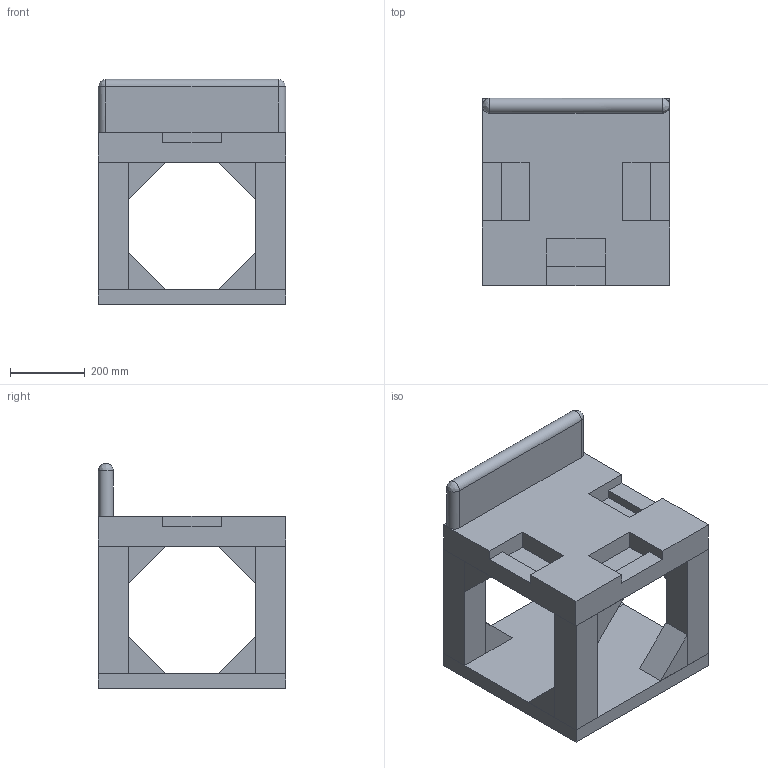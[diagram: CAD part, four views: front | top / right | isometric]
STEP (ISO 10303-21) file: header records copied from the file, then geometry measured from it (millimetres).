
FILE_DESCRIPTION(/* description */ (''),/* implementation_level */ '2;1');
FILE_NAME(/* name */ 'kinoshita_baobabland_k153',/* time_stamp */ '2026-04-13T20:49:46+09:00',/* author */ (''),/* organization */ (''),/* preprocessor_version */ 'ST-DEVELOPER v16.5',/* originating_system */ '',/* authorisation */ '');
FILE_SCHEMA (('AUTOMOTIVE_DESIGN'));
Length unit declared in the file: millimetre
Products named in the file (1): Document
Bounding box: 500 x 500 x 600.98 mm (x, y, z)
Volume: 42217945.8 mm3; surface area: 2254543.8 mm2
Topology: 15 solids, 15 shells, 102 faces, 216 edges, 142 vertices
Faces by surface type: plane 97, bspline 5
Entity records: 2433 total; most frequent: CARTESIAN_POINT 779, ORIENTED_EDGE 428, EDGE_CURVE 214, B_SPLINE_CURVE_WITH_KNOTS 206, VERTEX_POINT 142, ADVANCED_FACE 102, FACE_OUTER_BOUND 102, EDGE_LOOP 102
